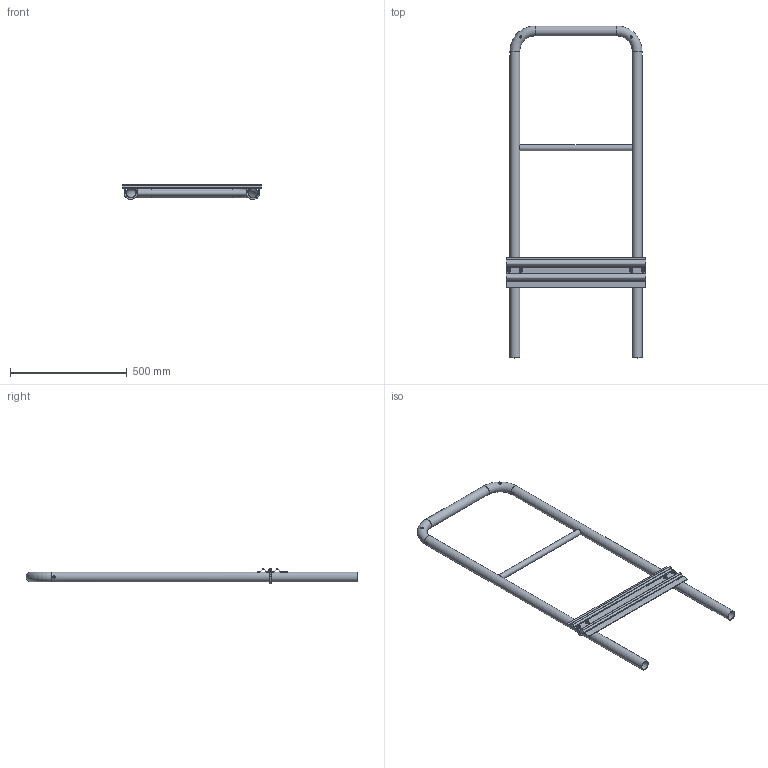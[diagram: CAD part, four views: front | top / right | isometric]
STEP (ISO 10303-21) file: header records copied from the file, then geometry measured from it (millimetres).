
FILE_DESCRIPTION((''),'2;1');
FILE_NAME('S:\Användarkataloger\AndreasA\Mina Inventor filer\Räcken\STEP\modul_ind_slist_600-1400.stp','2010-09-07T13:20:14',('AndreasA'),(''),'Autodesk Inventor 2011','Autodesk Inventor 2011','');
FILE_SCHEMA(('AUTOMOTIVE_DESIGN { 1 0 10303 214 1 1 1 1 }'));
Length unit declared in the file: millimetre
Products named in the file (9): modul_ind_slist_600-1400; modul_ind_600-1400; handledare_modul_600-1400; mellanliggare_modul_600; sparklist_k130_modul_600; bygelskruv_U42_kpl; bygelskruv_U42; SS 3576 8; ISO 4032 M8
Assembly tree (11 placements, depth 3):
  modul_ind_slist_600-1400
    modul_ind_600-1400
      handledare_modul_600-1400
      mellanliggare_modul_600
    sparklist_k130_modul_600
    bygelskruv_U42_kpl  x2
      bygelskruv_U42
      SS 3576 8
      ISO 4032 M8
Bounding box: 596 x 1421.2 x 64.96 mm (x, y, z)
Volume: 1126116.1 mm3; surface area: 1082786.3 mm2
Topology: 13 solids, 13 shells, 148 faces, 350 edges, 224 vertices
Faces by surface type: plane 66, cylinder 52, cone 24, torus 6
Full cylindrical faces by diameter (mm): 6.647 x4, 7 x4, 8 x4, 8.4 x4, 10 x4, 11 x8, 16 x4, 21 x1, 25 x1, 38.4 x3, 42.4 x3
Entity records: 3275 total; most frequent: CARTESIAN_POINT 1136, DIRECTION 414, ORIENTED_EDGE 324, AXIS2_PLACEMENT_3D 174, EDGE_CURVE 162, EDGE_LOOP 158, VERTEX_POINT 128, FACE_OUTER_BOUND 86
